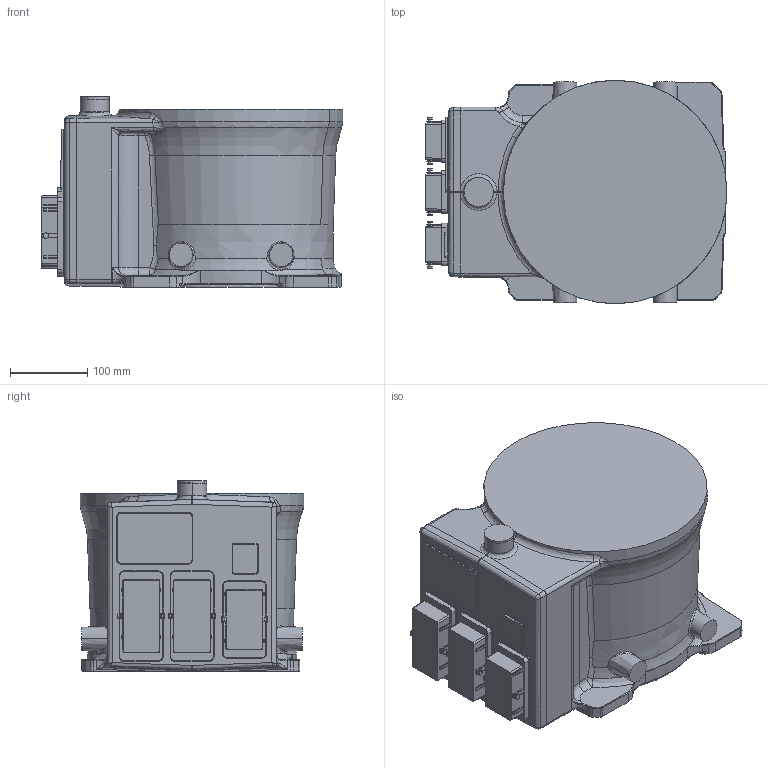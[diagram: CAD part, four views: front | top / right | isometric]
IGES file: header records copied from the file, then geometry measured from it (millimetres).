
Start section: START RECORD GO HERE.
Global section: file name: 10_MZ12_S1_ASSY.igs; native system: DASSAULT SYSTEMES CATIA Version 5-6 Release 2012 - www.3ds.com; preprocessor: V5-6R2012_5.22.4.0.11-16-2012.22.00; author: thb441; organization: NACHI-JP; date: 20170719.184926; units: millimetre
Bounding box: 391.47 x 289.96 x 247 mm (x, y, z)
Volume: 18438813.8 mm3; surface area: 522217.4 mm2
Topology: 1 solids, 7 shells, 763 faces, 1877 edges, 1140 vertices
Faces by surface type: revolution 380, plane 226, bspline 155, extrusion 2
